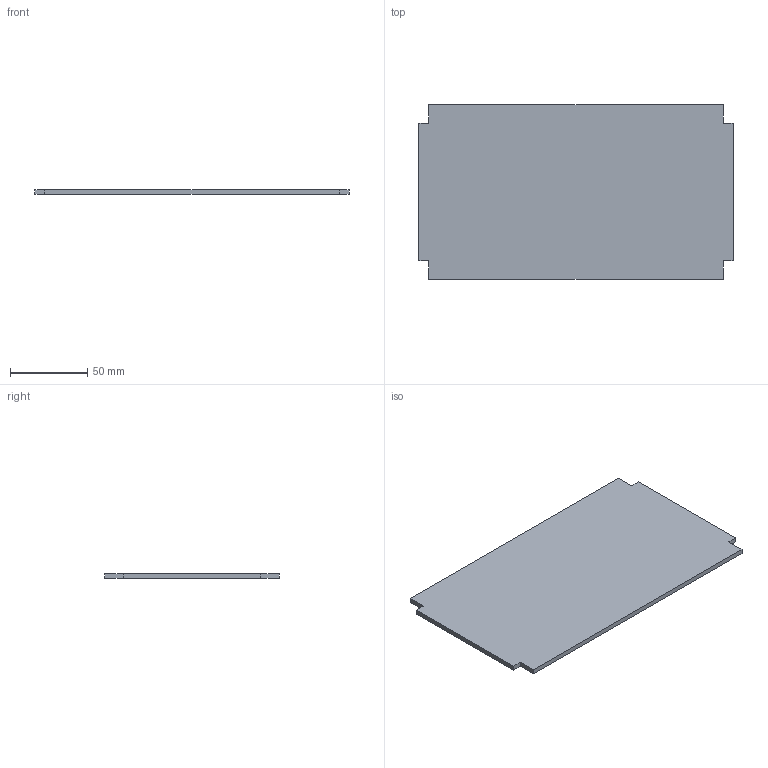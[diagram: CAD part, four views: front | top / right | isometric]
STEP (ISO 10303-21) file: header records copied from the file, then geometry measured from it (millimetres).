
FILE_DESCRIPTION (( 'STEP AP203' ), '1' );
FILE_NAME ('Window_Pane.STEP', '2026-01-29T02:21:39', ( '' ), ( '' ), 'SwSTEP 2.0', 'SolidWorks 2019', '' );
FILE_SCHEMA (( 'CONFIG_CONTROL_DESIGN' ));
Length unit declared in the file: inch
Products named in the file (1): Window_Pane
Bounding box: 203.2 x 113.03 x 3.17 mm (x, y, z)
Volume: 71949.5 mm3; surface area: 47330.6 mm2
Topology: 1 solids, 1 shells, 14 faces, 36 edges, 24 vertices
Faces by surface type: plane 14
Entity records: 499 total; most frequent: CARTESIAN_POINT 75, ORIENTED_EDGE 72, DIRECTION 66, LINE 36, EDGE_CURVE 36, VECTOR 36, VERTEX_POINT 24, AXIS2_PLACEMENT_3D 15
